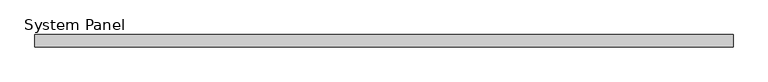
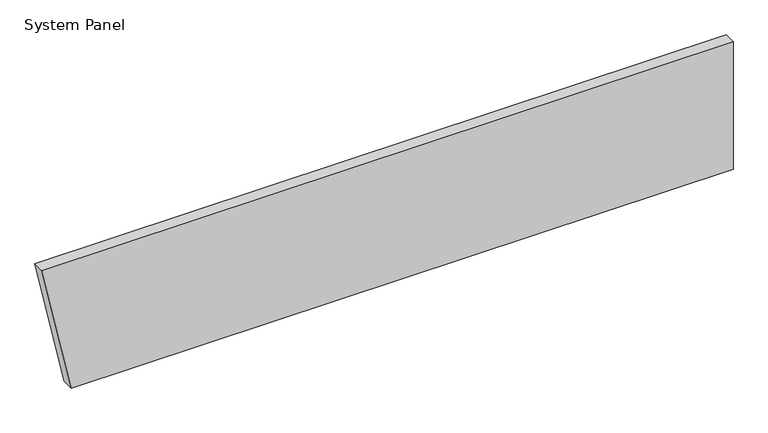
"""IFC4 building model written with IfcOpenShell, lengths in millimetres: plate geometry, System Panel : Inspire 100mm Horizontal - Plain RHEA-PIR."""

from ifc_helpers import new_model, si_unit, frame, origin, place, context, project, spatial, polyline, outline, extrude, source, transform, mapped, element, save


def system_panel_219c2210(model_context):
    return source(origin(), model_context, "Body", "SweptSolid", [
        extrude(outline(polyline([(0.0, -2590.0), (0.0, 2829.1323567), (1100.0, 2829.1323567), (1100.0, -2829.1323567), (0.0, -2590.0)])), frame((0.0, -100.0, 0.0), z_axis=(0.0, 1.0, 0.0), x_axis=(0.0, 0.0, 1.0)), (0.0, 0.0, 1.0), 100.0),
    ])


if __name__ == "__main__":
    model = new_model("IFC4")
    model_context = context("Model", 3, world=origin())
    ifc_project = project(units=[si_unit("LENGTHUNIT", "METRE", prefix="MILLI")], contexts=[model_context])
    site = spatial("IfcSite", under=ifc_project)
    building = spatial("IfcBuilding", under=site)
    placement = place(None, origin())
    system_panel_shape = system_panel_219c2210(model_context)
    element("IfcPlate", 1, ObjectType="System Panel : Inspire 100mm Horizontal - Plain RHEA-PIR", at=placement, inside=building, context=model_context, shape_type="MappedRepresentation", body=[
        mapped(system_panel_shape, transform((0.0, 0.0, 0.0), x_axis=(1.0, 0.0, 0.0), y_axis=(0.0, 1.0, 0.0), z_axis=(0.0, 0.0, 1.0))),
    ])
    save(model, "model.ifc")
